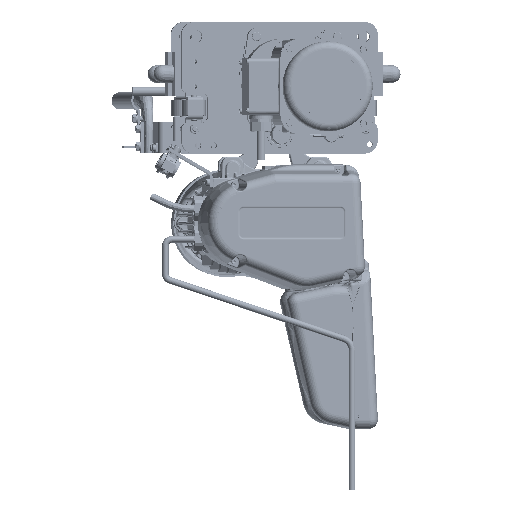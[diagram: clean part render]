
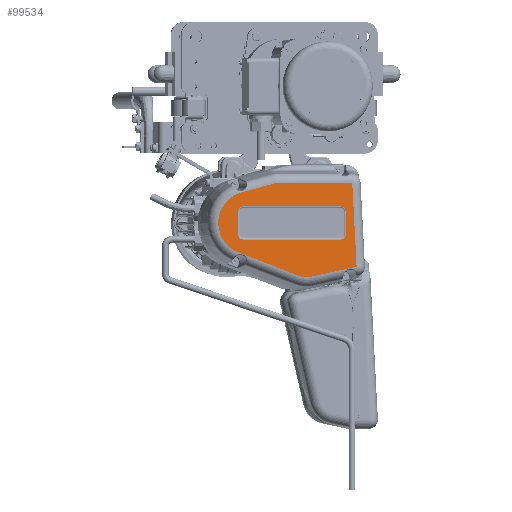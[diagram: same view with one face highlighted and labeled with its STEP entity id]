
A CAD part, top view. The second image highlights one B-rep face of the part: STEP entity #99534.
In plain terms, the highlighted planar face has unit normal (0.116, 0, 0.993) as drawn and (0, 0, 1) by its records, which use the part's own axes.
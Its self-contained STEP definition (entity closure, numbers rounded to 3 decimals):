
#2155 = ORIENTED_EDGE ( 'NONE', *, *, #228027, .T. ) ;
#3295 = CARTESIAN_POINT ( 'NONE',  ( 154.536, -18., 98. ) ) ;
#4559 = CARTESIAN_POINT ( 'NONE',  ( 154.536, -18., 98. ) ) ;
#4888 = CARTESIAN_POINT ( 'NONE',  ( -15., -61.5, 98. ) ) ;
#16333 = CARTESIAN_POINT ( 'NONE',  ( 0., 0., 98. ) ) ;
#17957 = AXIS2_PLACEMENT_3D ( 'NONE', #273894, #92816, #304191 ) ;
#24368 = EDGE_CURVE ( 'NONE', #224357, #177532, #285397, .T. ) ;
#30614 = AXIS2_PLACEMENT_3D ( 'NONE', #73680, #285155, #104157 ) ;
#33097 = CARTESIAN_POINT ( 'NONE',  ( 78.714, -84.243, 98. ) ) ;
#35276 = DIRECTION ( 'NONE',  ( 1., 0., 0. ) ) ;
#37196 = CIRCLE ( 'NONE', #316117, 8.536 ) ;
#38183 = VERTEX_POINT ( 'NONE', #82452 ) ;
#39551 = VERTEX_POINT ( 'NONE', #139408 ) ;
#39591 = LINE ( 'NONE', #4559, #342107 ) ;
#43221 = VERTEX_POINT ( 'NONE', #304390 ) ;
#44431 = LINE ( 'NONE', #33097, #266756 ) ;
#46199 = FACE_OUTER_BOUND ( 'NONE', #383035, .T. ) ;
#46674 = DIRECTION ( 'NONE',  ( 0., 0., 1. ) ) ;
#47873 = ORIENTED_EDGE ( 'NONE', *, *, #24368, .T. ) ;
#48557 = VECTOR ( 'NONE', #340541, 1000. ) ;
#50399 = VERTEX_POINT ( 'NONE', #90969 ) ;
#56185 = CARTESIAN_POINT ( 'NONE',  ( 78.714, -84.243, 98. ) ) ;
#58058 = CARTESIAN_POINT ( 'NONE',  ( 146., 18., 98. ) ) ;
#60460 = DIRECTION ( 'NONE',  ( 0., 0., -1. ) ) ;
#63917 = CARTESIAN_POINT ( 'NONE',  ( -10., 18., 98. ) ) ;
#69439 = CIRCLE ( 'NONE', #213277, 8.536 ) ;
#73059 = DIRECTION ( 'NONE',  ( -0.965, -0.262, 0. ) ) ;
#73680 = CARTESIAN_POINT ( 'NONE',  ( 91.414, -51.166, 98. ) ) ;
#80603 = ORIENTED_EDGE ( 'NONE', *, *, #254146, .T. ) ;
#82452 = CARTESIAN_POINT ( 'NONE',  ( -10., 26.536, 98. ) ) ;
#85096 = CARTESIAN_POINT ( 'NONE',  ( 99.053, -85.764, 98. ) ) ;
#87745 = LINE ( 'NONE', #194994, #158617 ) ;
#88450 = DIRECTION ( 'NONE',  ( 1., 0., 0. ) ) ;
#90969 = CARTESIAN_POINT ( 'NONE',  ( 146., 26.536, 98. ) ) ;
#92816 = DIRECTION ( 'NONE',  ( 0., 0., -1. ) ) ;
#93022 = EDGE_CURVE ( 'NONE', #38183, #50399, #122611, .T. ) ;
#94298 = DIRECTION ( 'NONE',  ( 1., 0., 0. ) ) ;
#96124 = ORIENTED_EDGE ( 'NONE', *, *, #364370, .T. ) ;
#97781 = LINE ( 'NONE', #56185, #206662 ) ;
#98762 = CARTESIAN_POINT ( 'NONE',  ( 183.3, -67.161, 98. ) ) ;
#99534 = ADVANCED_FACE ( 'NONE', ( #46199, #197603 ), #227823, .T. ) ;
#104157 = DIRECTION ( 'NONE',  ( 1., 0., 0. ) ) ;
#105716 = LINE ( 'NONE', #237452, #318327 ) ;
#109514 = CARTESIAN_POINT ( 'NONE',  ( 164.934, 63.79, 98. ) ) ;
#113606 = CARTESIAN_POINT ( 'NONE',  ( 42.505, 63.79, 98. ) ) ;
#115555 = CARTESIAN_POINT ( 'NONE',  ( -10., -26.536, 98. ) ) ;
#116572 = CARTESIAN_POINT ( 'NONE',  ( 146., 26.536, 98. ) ) ;
#122152 = ORIENTED_EDGE ( 'NONE', *, *, #212995, .T. ) ;
#122473 = ORIENTED_EDGE ( 'NONE', *, *, #198616, .T. ) ;
#122611 = LINE ( 'NONE', #116572, #273861 ) ;
#126419 = LINE ( 'NONE', #115555, #187797 ) ;
#128155 = DIRECTION ( 'NONE',  ( 0.934, -0.358, 0. ) ) ;
#131472 = DIRECTION ( 'NONE',  ( 0., -1., 0. ) ) ;
#139408 = CARTESIAN_POINT ( 'NONE',  ( -10., -26.536, 98. ) ) ;
#146932 = DIRECTION ( 'NONE',  ( 1., 0., 0. ) ) ;
#148164 = AXIS2_PLACEMENT_3D ( 'NONE', #241573, #60460, #271923 ) ;
#158617 = VECTOR ( 'NONE', #345583, 1000. ) ;
#160266 = CIRCLE ( 'NONE', #148164, 8.536 ) ;
#160392 = CARTESIAN_POINT ( 'NONE',  ( -13.208, 48.671, 98. ) ) ;
#164585 = CARTESIAN_POINT ( 'NONE',  ( -8.814, -50.636, 98. ) ) ;
#169353 = EDGE_CURVE ( 'NONE', #225470, #38183, #37196, .T. ) ;
#174974 = VERTEX_POINT ( 'NONE', #164585 ) ;
#177532 = VERTEX_POINT ( 'NONE', #85096 ) ;
#178144 = CARTESIAN_POINT ( 'NONE',  ( 0., 0., 98. ) ) ;
#178686 = VERTEX_POINT ( 'NONE', #113606 ) ;
#179887 = AXIS2_PLACEMENT_3D ( 'NONE', #16333, #46674, #258163 ) ;
#181374 = VECTOR ( 'NONE', #219055, 1000. ) ;
#181440 = EDGE_CURVE ( 'NONE', #297429, #333942, #363015, .T. ) ;
#182475 = ORIENTED_EDGE ( 'NONE', *, *, #181440, .T. ) ;
#182590 = ORIENTED_EDGE ( 'NONE', *, *, #376568, .T. ) ;
#184990 = ORIENTED_EDGE ( 'NONE', *, *, #357863, .T. ) ;
#186647 = LINE ( 'NONE', #160392, #337897 ) ;
#187797 = VECTOR ( 'NONE', #326862, 1000. ) ;
#193127 = CARTESIAN_POINT ( 'NONE',  ( 171.928, -69.672, 98. ) ) ;
#194994 = CARTESIAN_POINT ( 'NONE',  ( -18.536, 18., 98. ) ) ;
#196189 = CARTESIAN_POINT ( 'NONE',  ( 78.714, -84.243, 98. ) ) ;
#197603 = FACE_BOUND ( 'NONE', #239450, .T. ) ;
#198616 = EDGE_CURVE ( 'NONE', #177532, #238656, #299224, .T. ) ;
#198856 = ORIENTED_EDGE ( 'NONE', *, *, #229140, .T. ) ;
#206662 = VECTOR ( 'NONE', #237351, 1000. ) ;
#208571 = DIRECTION ( 'NONE',  ( 1., 0., 0. ) ) ;
#212995 = EDGE_CURVE ( 'NONE', #333942, #39551, #126419, .T. ) ;
#213277 = AXIS2_PLACEMENT_3D ( 'NONE', #58058, #269508, #88450 ) ;
#216313 = DIRECTION ( 'NONE',  ( 0., 0., -1. ) ) ;
#216442 = CARTESIAN_POINT ( 'NONE',  ( 164.995, 62.62, 98. ) ) ;
#219055 = DIRECTION ( 'NONE',  ( -0.052, 0.999, 0. ) ) ;
#224357 = VERTEX_POINT ( 'NONE', #196189 ) ;
#224779 = CARTESIAN_POINT ( 'NONE',  ( -18.076, -47.08, 98. ) ) ;
#225470 = VERTEX_POINT ( 'NONE', #341524 ) ;
#227823 = PLANE ( 'NONE',  #179887 ) ;
#228027 = EDGE_CURVE ( 'NONE', #271472, #228334, #97781, .T. ) ;
#228334 = VERTEX_POINT ( 'NONE', #371731 ) ;
#229140 = EDGE_CURVE ( 'NONE', #50399, #295050, #69439, .T. ) ;
#234706 = EDGE_CURVE ( 'NONE', #293336, #271472, #252618, .T. ) ;
#237351 = DIRECTION ( 'NONE',  ( 0.934, -0.358, 0. ) ) ;
#237452 = CARTESIAN_POINT ( 'NONE',  ( 40.545, 63.79, 98. ) ) ;
#238656 = VERTEX_POINT ( 'NONE', #193127 ) ;
#239450 = EDGE_LOOP ( 'NONE', ( #198856, #281418, #182475, #122152, #96124, #184990, #285344, #308646 ) ) ;
#241573 = CARTESIAN_POINT ( 'NONE',  ( -10., -18., 98. ) ) ;
#244241 = ORIENTED_EDGE ( 'NONE', *, *, #255507, .T. ) ;
#245121 = EDGE_CURVE ( 'NONE', #228334, #174974, #333191, .T. ) ;
#246115 = EDGE_CURVE ( 'NONE', #336804, #178686, #105716, .T. ) ;
#251501 = CARTESIAN_POINT ( 'NONE',  ( -13.208, 48.671, 98. ) ) ;
#252618 = CIRCLE ( 'NONE', #344069, 50.431 ) ;
#254146 = EDGE_CURVE ( 'NONE', #178686, #293336, #186647, .T. ) ;
#255507 = EDGE_CURVE ( 'NONE', #174974, #224357, #44431, .T. ) ;
#258163 = DIRECTION ( 'NONE',  ( 1., 0., 0. ) ) ;
#263374 = EDGE_CURVE ( 'NONE', #295050, #297429, #39591, .T. ) ;
#266756 = VECTOR ( 'NONE', #128155, 1000. ) ;
#269508 = DIRECTION ( 'NONE',  ( 0., 0., -1. ) ) ;
#271472 = VERTEX_POINT ( 'NONE', #224779 ) ;
#271923 = DIRECTION ( 'NONE',  ( 1., 0., 0. ) ) ;
#273861 = VECTOR ( 'NONE', #146932, 1000. ) ;
#273894 = CARTESIAN_POINT ( 'NONE',  ( 146., -18., 98. ) ) ;
#275398 = DIRECTION ( 'NONE',  ( 0., 0., -1. ) ) ;
#281418 = ORIENTED_EDGE ( 'NONE', *, *, #263374, .T. ) ;
#285155 = DIRECTION ( 'NONE',  ( 0., 0., 1. ) ) ;
#285344 = ORIENTED_EDGE ( 'NONE', *, *, #169353, .T. ) ;
#285397 = CIRCLE ( 'NONE', #30614, 35.431 ) ;
#293336 = VERTEX_POINT ( 'NONE', #251501 ) ;
#295050 = VERTEX_POINT ( 'NONE', #338092 ) ;
#295842 = ORIENTED_EDGE ( 'NONE', *, *, #246115, .T. ) ;
#297429 = VERTEX_POINT ( 'NONE', #3295 ) ;
#299224 = LINE ( 'NONE', #98762, #48557 ) ;
#304191 = DIRECTION ( 'NONE',  ( 1., 0., 0. ) ) ;
#304390 = CARTESIAN_POINT ( 'NONE',  ( -18.536, -18., 98. ) ) ;
#308646 = ORIENTED_EDGE ( 'NONE', *, *, #93022, .T. ) ;
#316117 = AXIS2_PLACEMENT_3D ( 'NONE', #63917, #275398, #94298 ) ;
#318327 = VECTOR ( 'NONE', #328470, 1000. ) ;
#326862 = DIRECTION ( 'NONE',  ( -1., 0., 0. ) ) ;
#328470 = DIRECTION ( 'NONE',  ( -1., 0., 0. ) ) ;
#328899 = ORIENTED_EDGE ( 'NONE', *, *, #234706, .T. ) ;
#332622 = LINE ( 'NONE', #216442, #181374 ) ;
#333191 = CIRCLE ( 'NONE', #334172, 12.501 ) ;
#333942 = VERTEX_POINT ( 'NONE', #376539 ) ;
#334172 = AXIS2_PLACEMENT_3D ( 'NONE', #4888, #216313, #35276 ) ;
#336804 = VERTEX_POINT ( 'NONE', #109514 ) ;
#337897 = VECTOR ( 'NONE', #73059, 1000. ) ;
#338092 = CARTESIAN_POINT ( 'NONE',  ( 154.536, 18., 98. ) ) ;
#340541 = DIRECTION ( 'NONE',  ( 0.976, 0.216, 0. ) ) ;
#341524 = CARTESIAN_POINT ( 'NONE',  ( -18.536, 18., 98. ) ) ;
#342107 = VECTOR ( 'NONE', #131472, 1000. ) ;
#343671 = ORIENTED_EDGE ( 'NONE', *, *, #245121, .T. ) ;
#344069 = AXIS2_PLACEMENT_3D ( 'NONE', #178144, #389468, #208571 ) ;
#345583 = DIRECTION ( 'NONE',  ( 0., 1., 0. ) ) ;
#357863 = EDGE_CURVE ( 'NONE', #43221, #225470, #87745, .T. ) ;
#363015 = CIRCLE ( 'NONE', #17957, 8.536 ) ;
#364370 = EDGE_CURVE ( 'NONE', #39551, #43221, #160266, .T. ) ;
#371731 = CARTESIAN_POINT ( 'NONE',  ( -12.326, -49.288, 98. ) ) ;
#376539 = CARTESIAN_POINT ( 'NONE',  ( 146., -26.536, 98. ) ) ;
#376568 = EDGE_CURVE ( 'NONE', #238656, #336804, #332622, .T. ) ;
#383035 = EDGE_LOOP ( 'NONE', ( #328899, #2155, #343671, #244241, #47873, #122473, #182590, #295842, #80603 ) ) ;
#389468 = DIRECTION ( 'NONE',  ( 0., 0., 1. ) ) ;
